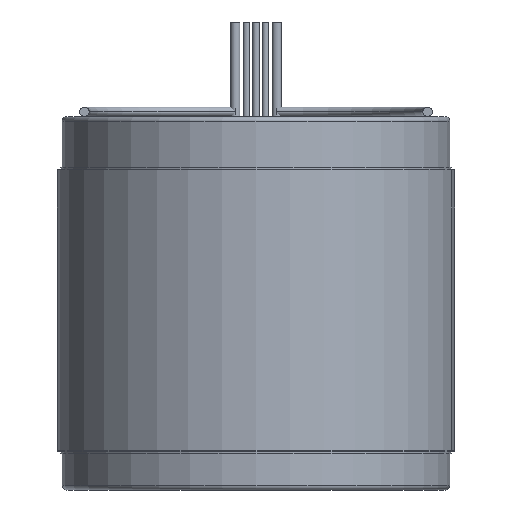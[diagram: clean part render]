
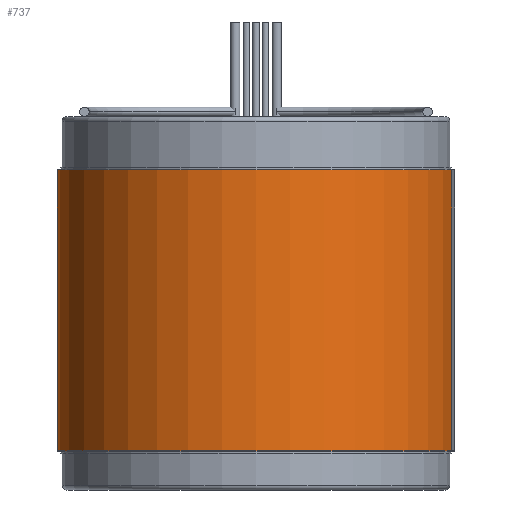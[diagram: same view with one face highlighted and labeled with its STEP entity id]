
A CAD part, front view. The second image highlights one B-rep face of the part: STEP entity #737.
In plain terms, the highlighted cylindrical face has radius 53.34 mm (diameter 106.68 mm), a partial arc.
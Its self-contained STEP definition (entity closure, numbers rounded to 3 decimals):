
#66 = CYLINDRICAL_SURFACE ( 'NONE', #1696, 53.34 ) ;
#353 = CARTESIAN_POINT ( 'NONE',  ( -53.34, 0., -37.744 ) ) ;
#518 = CIRCLE ( 'NONE', #1160, 53.34 ) ;
#519 = VERTEX_POINT ( 'NONE', #759 ) ;
#576 = EDGE_CURVE ( 'NONE', #2001, #2265, #2660, .T. ) ;
#622 = ORIENTED_EDGE ( 'NONE', *, *, #576, .T. ) ;
#713 = CARTESIAN_POINT ( 'NONE',  ( -53.34, 0., 37.744 ) ) ;
#737 = ADVANCED_FACE ( 'NONE', ( #917 ), #66, .T. ) ;
#759 = CARTESIAN_POINT ( 'NONE',  ( 53.34, 0., 37.744 ) ) ;
#777 = CARTESIAN_POINT ( 'NONE',  ( 0., 0., -38.456 ) ) ;
#780 = DIRECTION ( 'NONE',  ( 0., 0., 1. ) ) ;
#788 = DIRECTION ( 'NONE',  ( 0., 0., 1. ) ) ;
#800 = DIRECTION ( 'NONE',  ( 1., 0., 0. ) ) ;
#807 = CARTESIAN_POINT ( 'NONE',  ( 53.34, 0., -38.456 ) ) ;
#917 = FACE_OUTER_BOUND ( 'NONE', #1659, .T. ) ;
#1066 = VERTEX_POINT ( 'NONE', #713 ) ;
#1160 = AXIS2_PLACEMENT_3D ( 'NONE', #2119, #1669, #800 ) ;
#1177 = LINE ( 'NONE', #807, #1733 ) ;
#1447 = DIRECTION ( 'NONE',  ( 1., 0., 0. ) ) ;
#1614 = AXIS2_PLACEMENT_3D ( 'NONE', #1708, #788, #1447 ) ;
#1659 = EDGE_LOOP ( 'NONE', ( #2172, #622, #2678, #2407 ) ) ;
#1669 = DIRECTION ( 'NONE',  ( 0., 0., 1. ) ) ;
#1696 = AXIS2_PLACEMENT_3D ( 'NONE', #777, #2797, #2377 ) ;
#1708 = CARTESIAN_POINT ( 'NONE',  ( 0., 0., -37.744 ) ) ;
#1733 = VECTOR ( 'NONE', #2305, 1000. ) ;
#1748 = CARTESIAN_POINT ( 'NONE',  ( 53.34, 0., -37.744 ) ) ;
#1930 = EDGE_CURVE ( 'NONE', #2001, #1066, #2544, .T. ) ;
#1952 = VECTOR ( 'NONE', #780, 1000. ) ;
#2001 = VERTEX_POINT ( 'NONE', #353 ) ;
#2119 = CARTESIAN_POINT ( 'NONE',  ( 0., 0., 37.744 ) ) ;
#2172 = ORIENTED_EDGE ( 'NONE', *, *, #1930, .F. ) ;
#2265 = VERTEX_POINT ( 'NONE', #1748 ) ;
#2305 = DIRECTION ( 'NONE',  ( 0., 0., 1. ) ) ;
#2377 = DIRECTION ( 'NONE',  ( 1., 0., 0. ) ) ;
#2407 = ORIENTED_EDGE ( 'NONE', *, *, #2547, .F. ) ;
#2544 = LINE ( 'NONE', #2765, #1952 ) ;
#2547 = EDGE_CURVE ( 'NONE', #1066, #519, #518, .T. ) ;
#2623 = EDGE_CURVE ( 'NONE', #2265, #519, #1177, .T. ) ;
#2660 = CIRCLE ( 'NONE', #1614, 53.34 ) ;
#2678 = ORIENTED_EDGE ( 'NONE', *, *, #2623, .T. ) ;
#2765 = CARTESIAN_POINT ( 'NONE',  ( -53.34, 0., -38.456 ) ) ;
#2797 = DIRECTION ( 'NONE',  ( 0., 0., 1. ) ) ;
